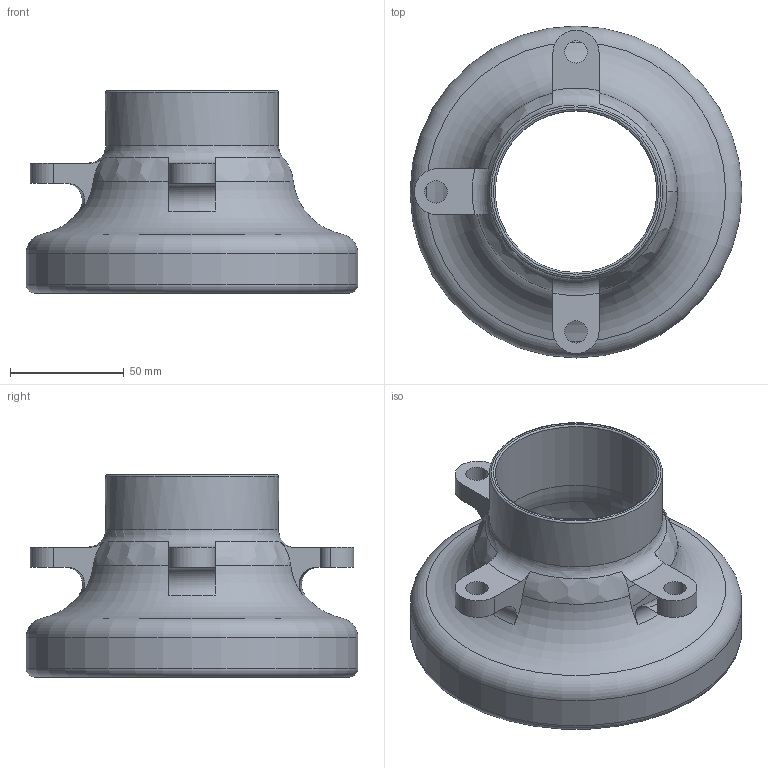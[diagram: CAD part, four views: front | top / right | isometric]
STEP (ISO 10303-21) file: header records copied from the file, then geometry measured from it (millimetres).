
FILE_DESCRIPTION(/* description */ (''),/* implementation_level */ '2;1');
FILE_NAME(/* name */ '/Users/johnny37922/Desktop/Fusion360/intake v4 v1.step',/* time_stamp */ '2020-08-12T17:13:53-04:00',/* author */ ('jlandry4HKZVF'),/* organization */ (''),/* preprocessor_version */ 'ST-DEVELOPER v17',/* originating_system */ 'Autodesk Translation Framework v7.1.0.215',/* authorisation */ '');
FILE_SCHEMA (('AUTOMOTIVE_DESIGN { 1 0 10303 214 3 1 1 }'));
Length unit declared in the file: inch
Products named in the file (1): intake v4
Bounding box: 146.05 x 146.05 x 88.9 mm (x, y, z)
Volume: 386319 mm3; surface area: 69068.1 mm2
Topology: 1 solids, 1 shells, 40 faces, 118 edges, 80 vertices
Faces by surface type: plane 14, torus 11, cylinder 10, bspline 4, sphere 1
Full cylindrical faces by diameter (mm): 9.906 x3, 71.12 x1, 76.2 x2, 146.05 x1
Entity records: 1981 total; most frequent: CARTESIAN_POINT 882, ORIENTED_EDGE 236, DIRECTION 208, EDGE_CURVE 118, AXIS2_PLACEMENT_3D 91, VERTEX_POINT 80, CIRCLE 54, EDGE_LOOP 48
